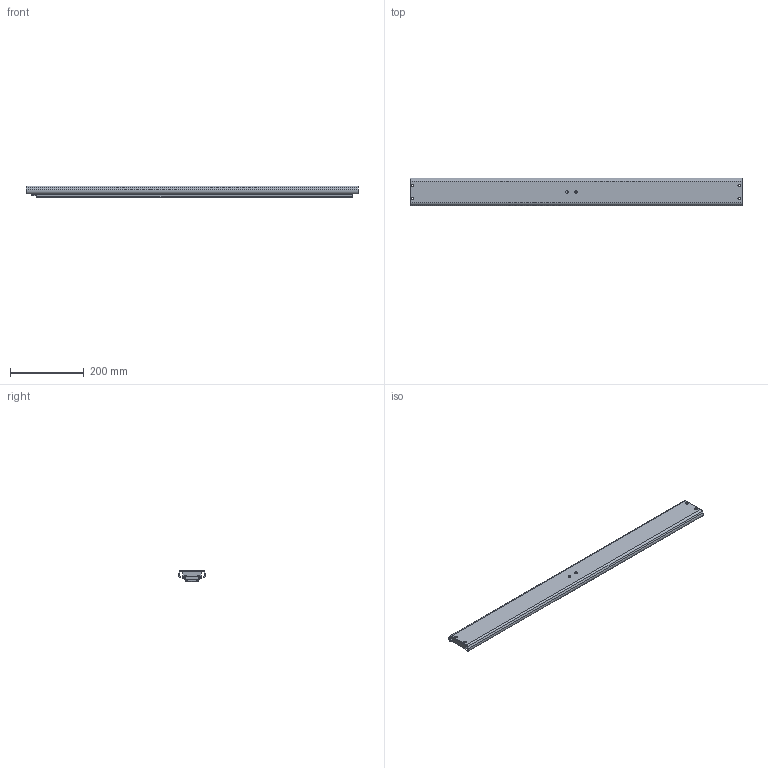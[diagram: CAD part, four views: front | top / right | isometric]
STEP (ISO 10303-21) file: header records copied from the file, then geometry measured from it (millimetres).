
FILE_DESCRIPTION(/* description */ ('TR7532 900 / 1350 (32)'),/* implementation_level */ '2;1');
FILE_NAME(/* name */ 'C:\Workspace\Documents\Projects\Custom Eng\slides\138\13875-Sxx\E000041188.stp',/* time_stamp */ '2016-07-22T13:21:29+02:00',/* author */ ('stagenbd'),/* organization */ (''),/* preprocessor_version */ 'ST-DEVELOPER v15.6',/* originating_system */ 'Autodesk Inventor 2015',/* authorisation */ '');
FILE_SCHEMA (('AUTOMOTIVE_DESIGN { 1 0 10303 214 3 1 1 }'));
Length unit declared in the file: millimetre
Products named in the file (1): E000041188
Bounding box: 900 x 74.93 x 32 mm (x, y, z)
Volume: 1047425 mm3; surface area: 498310 mm2
Topology: 7 solids, 7 shells, 204 faces, 532 edges, 326 vertices
Faces by surface type: cylinder 114, plane 68, sphere 16, cone 6
Full cylindrical faces by diameter (mm): 5 x6, 6.4 x2, 6.6 x2, 7 x4
Entity records: 6150 total; most frequent: DIRECTION 1140, CARTESIAN_POINT 1027, ORIENTED_EDGE 992, EDGE_CURVE 496, AXIS2_PLACEMENT_3D 439, VERTEX_POINT 326, LINE 262, VECTOR 262
